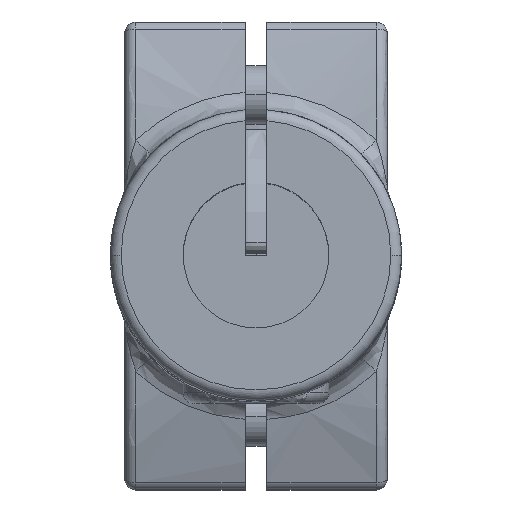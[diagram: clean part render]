
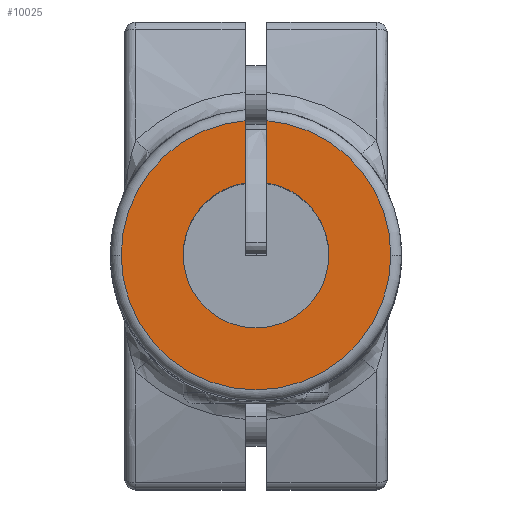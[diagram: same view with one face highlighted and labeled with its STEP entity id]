
A CAD part, top view. The second image highlights one B-rep face of the part: STEP entity #10025.
In plain terms, the highlighted planar face has unit normal (0, 0, 1) as drawn and (0, 0, -1) by its records, which use the part's own axes.
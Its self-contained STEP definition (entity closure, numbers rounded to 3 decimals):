
#178 = AXIS2_PLACEMENT_3D ( 'NONE', #6736, #14038, #6630 ) ;
#381 = ORIENTED_EDGE ( 'NONE', *, *, #8591, .F. ) ;
#517 = EDGE_CURVE ( 'NONE', #18206, #5635, #15886, .T. ) ;
#1111 = VERTEX_POINT ( 'NONE', #11939 ) ;
#1570 = AXIS2_PLACEMENT_3D ( 'NONE', #18977, #2380, #15842 ) ;
#1988 = DIRECTION ( 'NONE',  ( -1., 0., 0. ) ) ;
#2151 = DIRECTION ( 'NONE',  ( 0., 0., 1. ) ) ;
#2380 = DIRECTION ( 'NONE',  ( 0., 0., -1. ) ) ;
#2715 = LINE ( 'NONE', #18104, #5410 ) ;
#3156 = ORIENTED_EDGE ( 'NONE', *, *, #517, .T. ) ;
#3382 = EDGE_CURVE ( 'NONE', #12868, #5635, #2715, .T. ) ;
#3689 = CARTESIAN_POINT ( 'NONE',  ( 0., 0., 0. ) ) ;
#3829 = EDGE_CURVE ( 'NONE', #15355, #18206, #8021, .T. ) ;
#4156 = DIRECTION ( 'NONE',  ( 0., 1., 0. ) ) ;
#4311 = CARTESIAN_POINT ( 'NONE',  ( 1.5, 0., 0. ) ) ;
#5410 = VECTOR ( 'NONE', #4156, 1000. ) ;
#5490 = AXIS2_PLACEMENT_3D ( 'NONE', #14120, #2151, #8209 ) ;
#5635 = VERTEX_POINT ( 'NONE', #5875 ) ;
#5875 = CARTESIAN_POINT ( 'NONE',  ( -1.5, 18.439, 0. ) ) ;
#5974 = CARTESIAN_POINT ( 'NONE',  ( 0., 0., 0. ) ) ;
#6078 = DIRECTION ( 'NONE',  ( 1., 0., 0. ) ) ;
#6181 = CARTESIAN_POINT ( 'NONE',  ( 0., 0., 0. ) ) ;
#6443 = VECTOR ( 'NONE', #10439, 1000. ) ;
#6630 = DIRECTION ( 'NONE',  ( -1., 0., 0. ) ) ;
#6655 = CIRCLE ( 'NONE', #6985, 10. ) ;
#6736 = CARTESIAN_POINT ( 'NONE',  ( 0., 0., 0. ) ) ;
#6786 = EDGE_CURVE ( 'NONE', #10299, #13644, #7559, .T. ) ;
#6985 = AXIS2_PLACEMENT_3D ( 'NONE', #8989, #13217, #11809 ) ;
#7480 = ORIENTED_EDGE ( 'NONE', *, *, #6786, .T. ) ;
#7559 = CIRCLE ( 'NONE', #178, 10. ) ;
#7689 = DIRECTION ( 'NONE',  ( 0., 0., -1. ) ) ;
#8021 = CIRCLE ( 'NONE', #1570, 18.5 ) ;
#8209 = DIRECTION ( 'NONE',  ( 1., 0., 0. ) ) ;
#8267 = EDGE_CURVE ( 'NONE', #1111, #15355, #10570, .T. ) ;
#8506 = EDGE_LOOP ( 'NONE', ( #381, #9805, #15243, #3156, #18199, #16322, #7480, #16657 ) ) ;
#8591 = EDGE_CURVE ( 'NONE', #1111, #16281, #16328, .T. ) ;
#8725 = CARTESIAN_POINT ( 'NONE',  ( 10., 0., 0. ) ) ;
#8989 = CARTESIAN_POINT ( 'NONE',  ( 0., 0., 0. ) ) ;
#9805 = ORIENTED_EDGE ( 'NONE', *, *, #8267, .T. ) ;
#10025 = ADVANCED_FACE ( 'NONE', ( #15901 ), #15627, .F. ) ;
#10258 = EDGE_CURVE ( 'NONE', #12868, #10299, #14165, .T. ) ;
#10299 = VERTEX_POINT ( 'NONE', #15929 ) ;
#10439 = DIRECTION ( 'NONE',  ( 0., -1., 0. ) ) ;
#10570 = CIRCLE ( 'NONE', #17609, 18.5 ) ;
#10779 = AXIS2_PLACEMENT_3D ( 'NONE', #6181, #16785, #10998 ) ;
#10998 = DIRECTION ( 'NONE',  ( 1., 0., 0. ) ) ;
#11809 = DIRECTION ( 'NONE',  ( -1., 0., 0. ) ) ;
#11939 = CARTESIAN_POINT ( 'NONE',  ( 1.5, 18.439, 0. ) ) ;
#12756 = DIRECTION ( 'NONE',  ( 0., 0., 1. ) ) ;
#12868 = VERTEX_POINT ( 'NONE', #16869 ) ;
#13217 = DIRECTION ( 'NONE',  ( 0., 0., 1. ) ) ;
#13644 = VERTEX_POINT ( 'NONE', #8725 ) ;
#13859 = AXIS2_PLACEMENT_3D ( 'NONE', #3689, #12756, #1988 ) ;
#14038 = DIRECTION ( 'NONE',  ( 0., 0., 1. ) ) ;
#14120 = CARTESIAN_POINT ( 'NONE',  ( 0., 0., 0. ) ) ;
#14165 = CIRCLE ( 'NONE', #13859, 10. ) ;
#15056 = EDGE_CURVE ( 'NONE', #13644, #16281, #6655, .T. ) ;
#15243 = ORIENTED_EDGE ( 'NONE', *, *, #3829, .T. ) ;
#15355 = VERTEX_POINT ( 'NONE', #19583 ) ;
#15627 = PLANE ( 'NONE',  #5490 ) ;
#15812 = CARTESIAN_POINT ( 'NONE',  ( 1.5, 9.887, 0. ) ) ;
#15842 = DIRECTION ( 'NONE',  ( 1., 0., 0. ) ) ;
#15886 = CIRCLE ( 'NONE', #10779, 18.5 ) ;
#15901 = FACE_OUTER_BOUND ( 'NONE', #8506, .T. ) ;
#15929 = CARTESIAN_POINT ( 'NONE',  ( -10., 0., 0. ) ) ;
#16005 = CARTESIAN_POINT ( 'NONE',  ( -18.5, 0., 0. ) ) ;
#16281 = VERTEX_POINT ( 'NONE', #15812 ) ;
#16322 = ORIENTED_EDGE ( 'NONE', *, *, #10258, .T. ) ;
#16328 = LINE ( 'NONE', #4311, #6443 ) ;
#16657 = ORIENTED_EDGE ( 'NONE', *, *, #15056, .T. ) ;
#16785 = DIRECTION ( 'NONE',  ( 0., 0., -1. ) ) ;
#16869 = CARTESIAN_POINT ( 'NONE',  ( -1.5, 9.887, 0. ) ) ;
#17609 = AXIS2_PLACEMENT_3D ( 'NONE', #5974, #7689, #6078 ) ;
#18104 = CARTESIAN_POINT ( 'NONE',  ( -1.5, 0., 0. ) ) ;
#18199 = ORIENTED_EDGE ( 'NONE', *, *, #3382, .F. ) ;
#18206 = VERTEX_POINT ( 'NONE', #16005 ) ;
#18977 = CARTESIAN_POINT ( 'NONE',  ( 0., 0., 0. ) ) ;
#19583 = CARTESIAN_POINT ( 'NONE',  ( 18.5, 0., 0. ) ) ;
